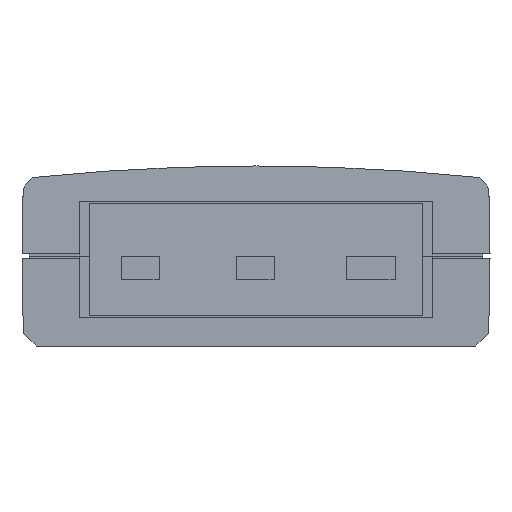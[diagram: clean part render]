
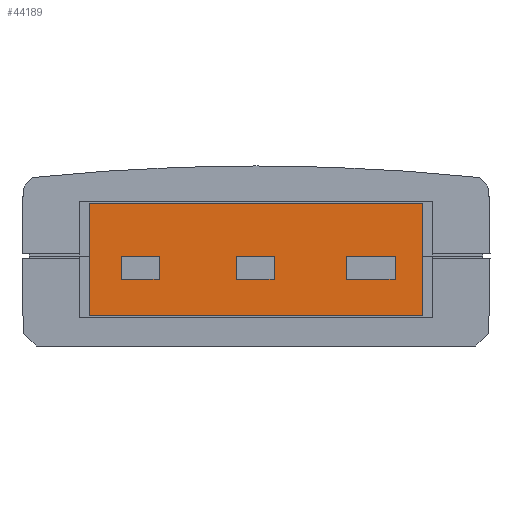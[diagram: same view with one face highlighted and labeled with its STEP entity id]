
A CAD part, left-side view. The second image highlights one B-rep face of the part: STEP entity #44189.
In plain terms, the highlighted planar face has unit normal (-1, 0, 0.018).
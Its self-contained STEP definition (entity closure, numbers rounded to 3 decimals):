
#42 = VERTEX_POINT ( 'NONE', #38610 ) ;
#1152 = CARTESIAN_POINT ( 'NONE',  ( -67.6, 11.575, 3.65 ) ) ;
#1556 = VECTOR ( 'NONE', #14255, 1000. ) ;
#1720 = VECTOR ( 'NONE', #19585, 1000. ) ;
#1865 = CARTESIAN_POINT ( 'NONE',  ( -67.692, -6.255, -1.62 ) ) ;
#2279 = FACE_OUTER_BOUND ( 'NONE', #12535, .T. ) ;
#2583 = DIRECTION ( 'NONE',  ( -0.017, 0., -1. ) ) ;
#2691 = CARTESIAN_POINT ( 'NONE',  ( -67.744, 11.575, -4.577 ) ) ;
#2739 = CARTESIAN_POINT ( 'NONE',  ( -67.664, 1.365, 0. ) ) ;
#3125 = EDGE_CURVE ( 'NONE', #45958, #32340, #19790, .T. ) ;
#3344 = VECTOR ( 'NONE', #48054, 1000. ) ;
#4154 = LINE ( 'NONE', #16478, #16418 ) ;
#4463 = DIRECTION ( 'NONE',  ( 0., -1., 0. ) ) ;
#4494 = EDGE_CURVE ( 'NONE', #23671, #39158, #32184, .T. ) ;
#5343 = LINE ( 'NONE', #31443, #42434 ) ;
#5521 = DIRECTION ( 'NONE',  ( -0.017, 0., -1. ) ) ;
#6022 = EDGE_CURVE ( 'NONE', #38083, #33910, #47633, .T. ) ;
#6115 = CARTESIAN_POINT ( 'NONE',  ( -67.736, 11.575, -4.15 ) ) ;
#6242 = LINE ( 'NONE', #20391, #23415 ) ;
#6275 = VECTOR ( 'NONE', #2583, 1000. ) ;
#7415 = LINE ( 'NONE', #43484, #1556 ) ;
#8266 = CARTESIAN_POINT ( 'NONE',  ( -67.692, 6.725, -1.62 ) ) ;
#8611 = CARTESIAN_POINT ( 'NONE',  ( -67.664, 6.725, 0. ) ) ;
#8643 = CARTESIAN_POINT ( 'NONE',  ( -67.692, 9.345, -1.62 ) ) ;
#8992 = DIRECTION ( 'NONE',  ( 0.017, 0., 1. ) ) ;
#9277 = ORIENTED_EDGE ( 'NONE', *, *, #27086, .T. ) ;
#9467 = DIRECTION ( 'NONE',  ( 0., 1., 0. ) ) ;
#9645 = CARTESIAN_POINT ( 'NONE',  ( -67.736, 11.575, -4.15 ) ) ;
#10058 = LINE ( 'NONE', #2739, #45315 ) ;
#10209 = EDGE_CURVE ( 'NONE', #18308, #43398, #33015, .T. ) ;
#11020 = VECTOR ( 'NONE', #9467, 1000. ) ;
#12006 = CARTESIAN_POINT ( 'NONE',  ( -67.664, -6.255, 0. ) ) ;
#12535 = EDGE_LOOP ( 'NONE', ( #26235, #30571, #21980, #22760 ) ) ;
#12818 = DIRECTION ( 'NONE',  ( -0.017, 0., -1. ) ) ;
#13457 = EDGE_CURVE ( 'NONE', #43347, #41789, #45570, .T. ) ;
#13745 = CARTESIAN_POINT ( 'NONE',  ( -67.664, 9.345, 0. ) ) ;
#14255 = DIRECTION ( 'NONE',  ( 0., 1., 0. ) ) ;
#14389 = LINE ( 'NONE', #9645, #16747 ) ;
#15184 = CARTESIAN_POINT ( 'NONE',  ( -67.692, 9.345, -1.62 ) ) ;
#15914 = VECTOR ( 'NONE', #22657, 1000. ) ;
#16418 = VECTOR ( 'NONE', #27485, 1000. ) ;
#16478 = CARTESIAN_POINT ( 'NONE',  ( -67.6, 11.575, 3.65 ) ) ;
#16747 = VECTOR ( 'NONE', #20385, 1000. ) ;
#16931 = ORIENTED_EDGE ( 'NONE', *, *, #34030, .T. ) ;
#17150 = DIRECTION ( 'NONE',  ( 0.017, 0., 1. ) ) ;
#17856 = CARTESIAN_POINT ( 'NONE',  ( -67.664, 16.243, 0.002 ) ) ;
#17865 = ORIENTED_EDGE ( 'NONE', *, *, #3125, .T. ) ;
#18044 = EDGE_CURVE ( 'NONE', #42, #38155, #6242, .T. ) ;
#18129 = AXIS2_PLACEMENT_3D ( 'NONE', #17856, #32735, #17150 ) ;
#18283 = DIRECTION ( 'NONE',  ( 0.017, 0., 1. ) ) ;
#18308 = VERTEX_POINT ( 'NONE', #8611 ) ;
#18923 = ORIENTED_EDGE ( 'NONE', *, *, #44271, .T. ) ;
#19585 = DIRECTION ( 'NONE',  ( 0., -1., 0. ) ) ;
#19745 = EDGE_CURVE ( 'NONE', #32368, #34189, #38476, .T. ) ;
#19790 = LINE ( 'NONE', #12006, #37787 ) ;
#20274 = ORIENTED_EDGE ( 'NONE', *, *, #13457, .T. ) ;
#20385 = DIRECTION ( 'NONE',  ( 0., 1., 0. ) ) ;
#20391 = CARTESIAN_POINT ( 'NONE',  ( -67.671, -1.255, -0.428 ) ) ;
#21541 = PLANE ( 'NONE',  #18129 ) ;
#21676 = VECTOR ( 'NONE', #18283, 1000. ) ;
#21797 = ORIENTED_EDGE ( 'NONE', *, *, #23934, .T. ) ;
#21980 = ORIENTED_EDGE ( 'NONE', *, *, #33516, .F. ) ;
#22147 = ORIENTED_EDGE ( 'NONE', *, *, #4494, .T. ) ;
#22376 = CARTESIAN_POINT ( 'NONE',  ( -67.736, -11.575, -4.15 ) ) ;
#22657 = DIRECTION ( 'NONE',  ( 0.017, 0., 1. ) ) ;
#22760 = ORIENTED_EDGE ( 'NONE', *, *, #25996, .F. ) ;
#23415 = VECTOR ( 'NONE', #12818, 1000. ) ;
#23671 = VERTEX_POINT ( 'NONE', #8643 ) ;
#23804 = LINE ( 'NONE', #34765, #25569 ) ;
#23934 = EDGE_CURVE ( 'NONE', #39158, #18308, #34924, .T. ) ;
#24068 = EDGE_CURVE ( 'NONE', #41789, #42, #10058, .T. ) ;
#25213 = FACE_BOUND ( 'NONE', #27078, .T. ) ;
#25277 = VERTEX_POINT ( 'NONE', #6115 ) ;
#25421 = ORIENTED_EDGE ( 'NONE', *, *, #24068, .T. ) ;
#25569 = VECTOR ( 'NONE', #5521, 1000. ) ;
#25996 = EDGE_CURVE ( 'NONE', #33910, #25277, #14389, .T. ) ;
#26235 = ORIENTED_EDGE ( 'NONE', *, *, #6022, .F. ) ;
#26317 = CARTESIAN_POINT ( 'NONE',  ( -67.671, 9.345, -0.428 ) ) ;
#26740 = ORIENTED_EDGE ( 'NONE', *, *, #36475, .T. ) ;
#27078 = EDGE_LOOP ( 'NONE', ( #25421, #34145, #26740, #20274 ) ) ;
#27086 = EDGE_CURVE ( 'NONE', #34189, #45958, #5343, .T. ) ;
#27485 = DIRECTION ( 'NONE',  ( 0., -1., 0. ) ) ;
#27880 = CARTESIAN_POINT ( 'NONE',  ( -67.664, 9.345, 0. ) ) ;
#28544 = ORIENTED_EDGE ( 'NONE', *, *, #10209, .T. ) ;
#29873 = EDGE_LOOP ( 'NONE', ( #17865, #16931, #32442, #9277 ) ) ;
#30571 = ORIENTED_EDGE ( 'NONE', *, *, #38119, .F. ) ;
#31375 = CARTESIAN_POINT ( 'NONE',  ( -67.692, -1.255, -1.62 ) ) ;
#31443 = CARTESIAN_POINT ( 'NONE',  ( -67.671, -6.255, -0.428 ) ) ;
#32184 = LINE ( 'NONE', #26317, #15914 ) ;
#32340 = VERTEX_POINT ( 'NONE', #42632 ) ;
#32368 = VERTEX_POINT ( 'NONE', #46060 ) ;
#32442 = ORIENTED_EDGE ( 'NONE', *, *, #19745, .T. ) ;
#32555 = CARTESIAN_POINT ( 'NONE',  ( -67.744, -11.575, -4.577 ) ) ;
#32679 = VECTOR ( 'NONE', #47846, 1000. ) ;
#32735 = DIRECTION ( 'NONE',  ( -1., 0., 0.017 ) ) ;
#33015 = LINE ( 'NONE', #47118, #32679 ) ;
#33400 = CARTESIAN_POINT ( 'NONE',  ( -67.6, -11.575, 3.65 ) ) ;
#33516 = EDGE_CURVE ( 'NONE', #25277, #45026, #36823, .T. ) ;
#33910 = VERTEX_POINT ( 'NONE', #22376 ) ;
#34030 = EDGE_CURVE ( 'NONE', #32340, #32368, #23804, .T. ) ;
#34145 = ORIENTED_EDGE ( 'NONE', *, *, #18044, .T. ) ;
#34189 = VERTEX_POINT ( 'NONE', #1865 ) ;
#34352 = CARTESIAN_POINT ( 'NONE',  ( -67.692, 1.365, -1.62 ) ) ;
#34765 = CARTESIAN_POINT ( 'NONE',  ( -67.671, -9.655, -0.428 ) ) ;
#34924 = LINE ( 'NONE', #27880, #1720 ) ;
#36475 = EDGE_CURVE ( 'NONE', #38155, #43347, #7415, .T. ) ;
#36804 = CARTESIAN_POINT ( 'NONE',  ( -67.664, -6.255, 0. ) ) ;
#36823 = LINE ( 'NONE', #2691, #21676 ) ;
#37787 = VECTOR ( 'NONE', #4463, 1000. ) ;
#38083 = VERTEX_POINT ( 'NONE', #33400 ) ;
#38119 = EDGE_CURVE ( 'NONE', #45026, #38083, #4154, .T. ) ;
#38155 = VERTEX_POINT ( 'NONE', #31375 ) ;
#38266 = VECTOR ( 'NONE', #8992, 1000. ) ;
#38476 = LINE ( 'NONE', #38716, #11020 ) ;
#38610 = CARTESIAN_POINT ( 'NONE',  ( -67.664, -1.255, 0. ) ) ;
#38650 = EDGE_LOOP ( 'NONE', ( #21797, #28544, #18923, #22147 ) ) ;
#38716 = CARTESIAN_POINT ( 'NONE',  ( -67.692, -6.255, -1.62 ) ) ;
#39158 = VERTEX_POINT ( 'NONE', #13745 ) ;
#39182 = CARTESIAN_POINT ( 'NONE',  ( -67.664, 1.365, 0. ) ) ;
#40242 = DIRECTION ( 'NONE',  ( 0., -1., 0. ) ) ;
#40267 = LINE ( 'NONE', #15184, #3344 ) ;
#41655 = DIRECTION ( 'NONE',  ( 0.017, 0., 1. ) ) ;
#41789 = VERTEX_POINT ( 'NONE', #39182 ) ;
#42381 = CARTESIAN_POINT ( 'NONE',  ( -67.671, 1.365, -0.428 ) ) ;
#42434 = VECTOR ( 'NONE', #41655, 1000. ) ;
#42632 = CARTESIAN_POINT ( 'NONE',  ( -67.664, -9.655, 0. ) ) ;
#43347 = VERTEX_POINT ( 'NONE', #34352 ) ;
#43398 = VERTEX_POINT ( 'NONE', #8266 ) ;
#43484 = CARTESIAN_POINT ( 'NONE',  ( -67.692, 1.365, -1.62 ) ) ;
#43691 = FACE_BOUND ( 'NONE', #29873, .T. ) ;
#43937 = FACE_BOUND ( 'NONE', #38650, .T. ) ;
#44189 = ADVANCED_FACE ( 'NONE', ( #43691, #25213, #43937, #2279 ), #21541, .T. ) ;
#44271 = EDGE_CURVE ( 'NONE', #43398, #23671, #40267, .T. ) ;
#45026 = VERTEX_POINT ( 'NONE', #1152 ) ;
#45315 = VECTOR ( 'NONE', #40242, 1000. ) ;
#45570 = LINE ( 'NONE', #42381, #38266 ) ;
#45958 = VERTEX_POINT ( 'NONE', #36804 ) ;
#46060 = CARTESIAN_POINT ( 'NONE',  ( -67.692, -9.655, -1.62 ) ) ;
#47118 = CARTESIAN_POINT ( 'NONE',  ( -67.671, 6.725, -0.428 ) ) ;
#47633 = LINE ( 'NONE', #32555, #6275 ) ;
#47846 = DIRECTION ( 'NONE',  ( -0.017, 0., -1. ) ) ;
#48054 = DIRECTION ( 'NONE',  ( 0., 1., 0. ) ) ;
